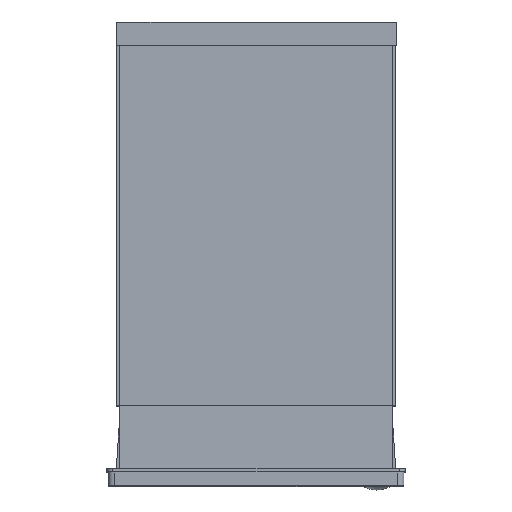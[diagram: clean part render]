
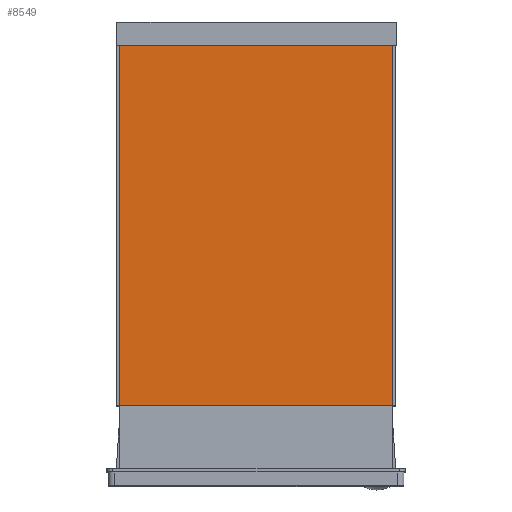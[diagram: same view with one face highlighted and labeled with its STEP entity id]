
A CAD part, top view. The second image highlights one B-rep face of the part: STEP entity #8549.
In plain terms, the highlighted planar face has unit normal (0, 0, 1).
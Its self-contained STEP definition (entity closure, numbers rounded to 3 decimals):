
#633=PLANE('',#9917);
#1089=FACE_OUTER_BOUND('',#1585,.T.);
#1585=EDGE_LOOP('',(#7849,#7850,#7851,#7852));
#2393=LINE('',#14277,#3369);
#2424=LINE('',#14344,#3400);
#2469=LINE('',#14452,#3445);
#2505=LINE('',#14526,#3481);
#3369=VECTOR('',#11791,10.);
#3400=VECTOR('',#11856,1.);
#3445=VECTOR('',#11961,1.);
#3481=VECTOR('',#12033,1.);
#4362=VERTEX_POINT('',#14206);
#4397=VERTEX_POINT('',#14275);
#4416=VERTEX_POINT('',#14343);
#4449=VERTEX_POINT('',#14451);
#5462=EDGE_CURVE('',#4397,#4362,#2393,.T.);
#5495=EDGE_CURVE('',#4362,#4416,#2424,.T.);
#5548=EDGE_CURVE('',#4416,#4449,#2469,.T.);
#5586=EDGE_CURVE('',#4449,#4397,#2505,.T.);
#7849=ORIENTED_EDGE('',*,*,#5586,.F.);
#7850=ORIENTED_EDGE('',*,*,#5548,.F.);
#7851=ORIENTED_EDGE('',*,*,#5495,.F.);
#7852=ORIENTED_EDGE('',*,*,#5462,.F.);
#8549=ADVANCED_FACE('',(#1089),#633,.T.);
#9917=AXIS2_PLACEMENT_3D('',#14618,#12124,#12125);
#11791=DIRECTION('',(1.,0.,0.));
#11856=DIRECTION('',(0.,-1.,0.));
#11961=DIRECTION('',(-1.,0.,0.));
#12033=DIRECTION('',(0.,1.,0.));
#12124=DIRECTION('center_axis',(0.,0.,1.));
#12125=DIRECTION('ref_axis',(1.,0.,0.));
#14206=CARTESIAN_POINT('',(145.135,-145.055,127.86));
#14275=CARTESIAN_POINT('',(56.135,-145.055,127.86));
#14277=CARTESIAN_POINT('',(56.135,-145.055,127.86));
#14343=CARTESIAN_POINT('',(145.135,-262.363,127.86));
#14344=CARTESIAN_POINT('',(145.135,-231.209,127.86));
#14451=CARTESIAN_POINT('',(56.135,-262.363,127.86));
#14452=CARTESIAN_POINT('',(100.635,-262.363,127.86));
#14526=CARTESIAN_POINT('',(56.135,-231.209,127.86));
#14618=CARTESIAN_POINT('Origin',(100.635,-231.209,127.86));
